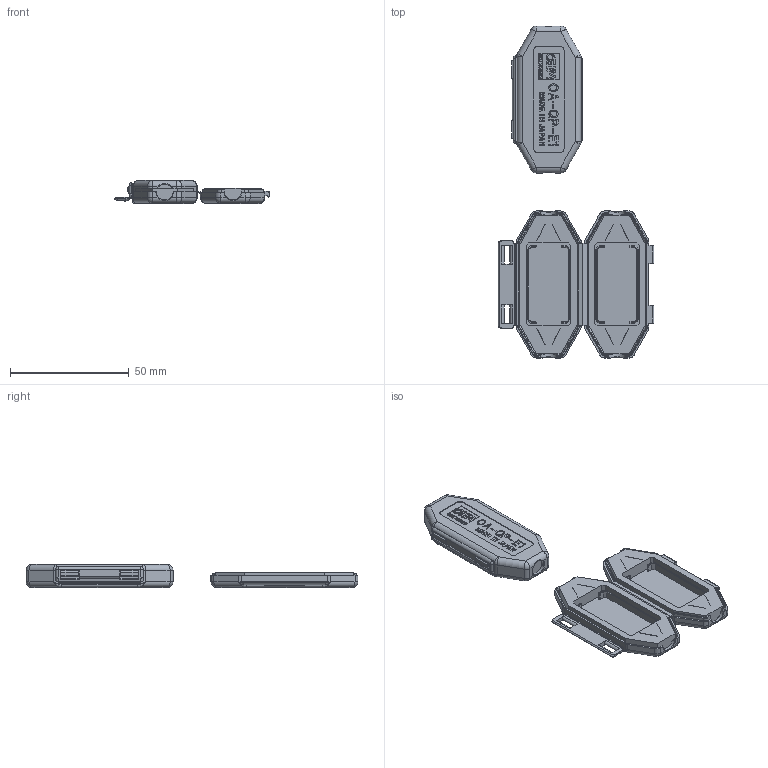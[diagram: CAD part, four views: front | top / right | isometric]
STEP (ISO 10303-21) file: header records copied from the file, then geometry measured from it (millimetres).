
FILE_DESCRIPTION(('Creo Elements/Direct Modeling STEP Export'),'2;1');
FILE_NAME('OA-QP-E1.stp','2013-03-11T16:20:54',(''),(''),'Creo Elements/Direct Modeling STEP processor for AP214 (Solid Model)','Creo Elements/Direct Modeling 18.1B 29-Sep-2012 (C) Parametric Technology GmbH','');
FILE_SCHEMA(('AUTOMOTIVE_DESIGN { 1 0 10303 214 1 1 1 1 }'));
Length unit declared in the file: millimetre
Products named in the file (4): OA-QP-E1_close; OA-QP-E1_open
Assembly tree (2 placements, depth 2):
  OA-QP-E1_close
    OA-QP-E1_close
  OA-QP-E1_open
    OA-QP-E1_open
Bounding box: 65.52 x 140 x 9.7 mm (x, y, z)
Volume: 25848.5 mm3; surface area: 17861.4 mm2
Topology: 2 solids, 2 shells, 2473 faces, 6762 edges, 4308 vertices
Faces by surface type: plane 1437, cylinder 816, sphere 88, torus 52, bspline 46, extrusion 34
Entity records: 85277 total; most frequent: CARTESIAN_POINT 22557, ORIENTED_EDGE 13358, DIRECTION 12788, EDGE_CURVE 6677, VECTOR 4718, LINE 4682, VERTEX_POINT 4308, AXIS2_PLACEMENT_3D 4035
